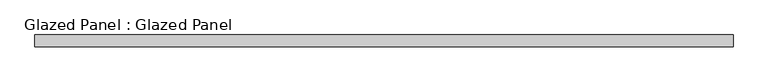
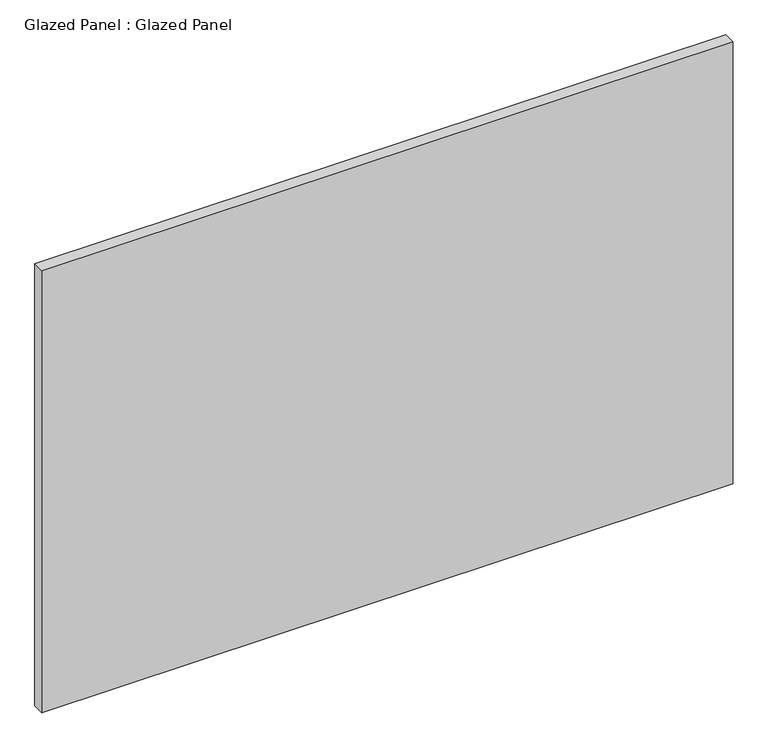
"""IFC4 building model written with IfcOpenShell, lengths in millimetres: plate geometry, Glazed Panel : Glazed Panel."""

import ifcopenshell
import ifcopenshell.guid

model = None  # the IFC model being written
_history = None  # IfcOwnerHistory: only IFC2X3 demands one
_inside = {}  # id of a spatial element -> (the spatial element, [elements in it])
_under = {}  # id of a project, library or spatial element -> (it, [spatial elements below it])
_declared = {}  # id of a project -> (the project, [libraries it declares])
_typed = {}  # id of a type object -> (the type object, [elements of that type])
_made_of = {}  # id of a material, layer set ... -> (it, [elements and type objects made of it])


def new_model(schema):
    """Start an empty IFC model of exactly this schema.

    Asked for "IFC4X3", IfcOpenShell would pick the latest addendum, in which some entities
    have other attributes; the version numbers below select the first issue.
    IFC2X3 requires an IfcOwnerHistory on every rooted entity: one is made here for all.
    """
    global model, _history
    if schema == "IFC4X3":
        model = ifcopenshell.file(schema_version=(4, 3, 0, 0))
    else:
        model = ifcopenshell.file(schema=schema)
    _inside.clear()
    _under.clear()
    _declared.clear()
    _typed.clear()
    _made_of.clear()
    _history = None
    if model.schema == "IFC2X3":
        org = make("IfcOrganization", Name="unknown")
        user = make(
            "IfcPersonAndOrganization",
            ThePerson=make("IfcPerson", FamilyName="unknown"),
            TheOrganization=org,
        )
        app = make(
            "IfcApplication",
            ApplicationDeveloper=org,
            Version="unknown",
            ApplicationFullName="unknown",
            ApplicationIdentifier="unknown",
        )
        _history = make(
            "IfcOwnerHistory",
            OwningUser=user,
            OwningApplication=app,
            ChangeAction="ADDED",
            CreationDate=0,
        )
    return model


def make(cls, **values):
    """One entity of the class cls with the attributes given. An attribute that is None is left unset."""
    return model.create_entity(
        cls, **{name: value for name, value in values.items() if value is not None}
    )


def rooted(cls, **values):
    """An entity with a GlobalId (a new one), such as an element, a storey or a relation."""
    return make(cls, GlobalId=ifcopenshell.guid.new(), OwnerHistory=_history, **values)


def si_unit(unit_type, name, prefix=None):
    """IfcSIUnit, for example si_unit("LENGTHUNIT", "METRE", prefix="MILLI")."""
    return make("IfcSIUnit", UnitType=unit_type, Prefix=prefix, Name=name)


def assignment(units):
    """IfcUnitAssignment: the units of a project."""
    return None if units is None else make("IfcUnitAssignment", Units=units)


def point(xyz):
    """IfcCartesianPoint."""
    return None if xyz is None else make("IfcCartesianPoint", Coordinates=xyz)


def direction(xyz):
    """IfcDirection."""
    return None if xyz is None else make("IfcDirection", DirectionRatios=xyz)


def frame(location, z_axis=None, x_axis=None):
    """IfcAxis2Placement3D, a coordinate frame: its origin and axes. An axis left out is left unset."""
    return make(
        "IfcAxis2Placement3D",
        Location=point(location),
        Axis=direction(z_axis),
        RefDirection=direction(x_axis),
    )


def origin():
    """The frame at (0, 0, 0) with its axes left unset."""
    return frame((0.0, 0.0, 0.0))


def origin_with_axes():
    """The frame at (0, 0, 0) with the z axis (0, 0, 1) and the x axis (1, 0, 0) written out."""
    return frame((0.0, 0.0, 0.0), z_axis=(0.0, 0.0, 1.0), x_axis=(1.0, 0.0, 0.0))


def place(relative_to, where):
    """IfcLocalPlacement: puts the frame where relative to a parent placement (None: the world)."""
    return make(
        "IfcLocalPlacement", PlacementRelTo=relative_to, RelativePlacement=where
    )


def context(
    kind, dimensions, precision=None, world=None, true_north=None, identifier=None
):
    """IfcGeometricRepresentationContext, for example the 3D "Model" context."""
    return make(
        "IfcGeometricRepresentationContext",
        ContextIdentifier=identifier,
        ContextType=kind,
        CoordinateSpaceDimension=dimensions,
        Precision=precision,
        WorldCoordinateSystem=world,
        TrueNorth=true_north,
    )


def project(units=None, contexts=None):
    """IfcProject with its units and contexts."""
    return rooted(
        "IfcProject",
        Name="project",
        RepresentationContexts=contexts,
        UnitsInContext=assignment(units),
    )


def spatial(cls, under=None, at=None, **own):
    """A site, building, storey or space (cls), placed at a placement, below another one or the project."""
    s = rooted(cls, ObjectPlacement=at, **own)
    if under is not None:
        _under.setdefault(under.id(), (under, []))[1].append(s)
    return s


def polyline(points):
    """IfcPolyline through the points."""
    return make("IfcPolyline", Points=[point(p) for p in points])


def outline(outer, holes=None, kind="AREA"):
    """IfcArbitraryClosedProfileDef: a profile drawn as a closed curve; with holes, ...WithVoids."""
    if holes is None:
        return make("IfcArbitraryClosedProfileDef", ProfileType=kind, OuterCurve=outer)
    return make(
        "IfcArbitraryProfileDefWithVoids",
        ProfileType=kind,
        OuterCurve=outer,
        InnerCurves=holes,
    )


def extrude(swept, where, along, depth):
    """IfcExtrudedAreaSolid: the profile swept, set in the frame where, extruded along a direction by depth."""
    return make(
        "IfcExtrudedAreaSolid",
        SweptArea=swept,
        Position=where,
        ExtrudedDirection=direction(along),
        Depth=depth,
    )


def shape(context_of_items, identifier, shape_type, items):
    """IfcShapeRepresentation: the items that make up one representation, for example the "Body"."""
    return make(
        "IfcShapeRepresentation",
        ContextOfItems=context_of_items,
        RepresentationIdentifier=identifier,
        RepresentationType=shape_type,
        Items=items,
    )


def source(mapping_origin, context_of_items, identifier, shape_type, items):
    """IfcRepresentationMap: a shape defined once, which mapped items show again and again."""
    return make(
        "IfcRepresentationMap",
        MappingOrigin=mapping_origin,
        MappedRepresentation=shape(context_of_items, identifier, shape_type, items),
    )


def transform(
    local_origin,
    x_axis=None,
    y_axis=None,
    z_axis=None,
    scale=None,
    scale2=None,
    scale3=None,
    uniform=True,
):
    """IfcCartesianTransformationOperator3D, or its non-uniform kind. x_axis, y_axis, z_axis: its Axis1, 2, 3."""
    if uniform:
        return make(
            "IfcCartesianTransformationOperator3D",
            Axis1=direction(x_axis),
            Axis2=direction(y_axis),
            LocalOrigin=point(local_origin),
            Scale=scale,
            Axis3=direction(z_axis),
        )
    return make(
        "IfcCartesianTransformationOperator3DnonUniform",
        Axis1=direction(x_axis),
        Axis2=direction(y_axis),
        LocalOrigin=point(local_origin),
        Scale=scale,
        Axis3=direction(z_axis),
        Scale2=scale2,
        Scale3=scale3,
    )


def mapped(mapping_source, mapping_target):
    """IfcMappedItem: shows the shape of a source again, moved by a transform."""
    return make(
        "IfcMappedItem", MappingSource=mapping_source, MappingTarget=mapping_target
    )


def made_of(thing, what):
    """Note that an element or type object is made of a material, layer set ...; save() writes the relation."""
    if what is not None:
        _made_of.setdefault(what.id(), (what, []))[1].append(thing)
    return thing


def element(
    cls,
    number,
    at=None,
    inside=None,
    cuts=None,
    type_object=None,
    material=None,
    context=None,
    identifier="Body",
    shape_type=None,
    held_by="IfcProductDefinitionShape",
    body=None,
    shapes=None,
    **own,
):
    """One element of the class cls, such as IfcWall. Its Tag is "e" and its number.

    at: its placement. inside: the storey or other place that contains it. cuts: it is an
    opening in that element (IfcRelVoidsElement). A single representation is given by context,
    identifier, shape_type and body (its items); several are given by shapes. held_by: the class
    of the entity that holds the representations. save() writes the other relations.
    """
    e = rooted(cls, Tag="e%d" % number, ObjectPlacement=at, **own)
    if body is not None:
        shapes = [shape(context, identifier, shape_type, body)]
    if shapes is not None:
        e.Representation = make(held_by, Representations=shapes)
    if inside is not None:
        _inside.setdefault(inside.id(), (inside, []))[1].append(e)
    if cuts is not None:
        rooted(
            "IfcRelVoidsElement", RelatingBuildingElement=cuts, RelatedOpeningElement=e
        )
    if type_object is not None:
        _typed.setdefault(type_object.id(), (type_object, []))[1].append(e)
    return made_of(e, material)


def aggregate(whole, parts):
    """IfcRelAggregates: a whole, such as a stair, and the parts it consists of."""
    return rooted("IfcRelAggregates", RelatingObject=whole, RelatedObjects=parts)


def save(model, path):
    """Write the relations noted so far, then the file.

    IfcRelAggregates (storeys below a building ...), IfcRelContainedInSpatialStructure (elements
    in a storey), IfcRelDefinesByType, IfcRelAssociatesMaterial and IfcRelDeclares: one each for
    every whole, place, type object, material and project.
    """
    for whole, parts in _under.values():
        aggregate(whole, parts)
    for where, things in _inside.values():
        rooted(
            "IfcRelContainedInSpatialStructure",
            RelatedElements=things,
            RelatingStructure=where,
        )
    for kind, things in _typed.values():
        rooted("IfcRelDefinesByType", RelatedObjects=things, RelatingType=kind)
    for what, things in _made_of.values():
        rooted("IfcRelAssociatesMaterial", RelatedObjects=things, RelatingMaterial=what)
    for by, libraries in _declared.values():
        rooted("IfcRelDeclares", RelatingContext=by, RelatedDefinitions=libraries)
    model.write(path)


def glazed_panel_glazed_panel_a7529006(model_context):
    return source(origin(), model_context, "Body", "SweptSolid", [
        extrude(outline(polyline([(756.3120865, -38.1), (756.3120865, -63.5), (-756.3120865, -63.5), (-756.3120865, -38.1), (756.3120865, -38.1)])), origin_with_axes(), (0.0, 0.0, 1.0), 1022.35),
    ])


if __name__ == "__main__":
    model = new_model("IFC4")
    model_context = context("Model", 3, world=origin())
    ifc_project = project(units=[si_unit("LENGTHUNIT", "METRE", prefix="MILLI")], contexts=[model_context])
    site = spatial("IfcSite", under=ifc_project)
    building = spatial("IfcBuilding", under=site)
    placement = place(None, origin())
    glazed_panel_glazed_panel_shape = glazed_panel_glazed_panel_a7529006(model_context)
    element("IfcPlate", 1, ObjectType="Glazed Panel : Glazed Panel", at=placement, inside=building, context=model_context, shape_type="MappedRepresentation", body=[
        mapped(glazed_panel_glazed_panel_shape, transform((0.0, 0.0, 0.0), x_axis=(1.0, 0.0, 0.0), y_axis=(0.0, 1.0, 0.0), z_axis=(0.0, 0.0, 1.0))),
    ])
    save(model, "model.ifc")
